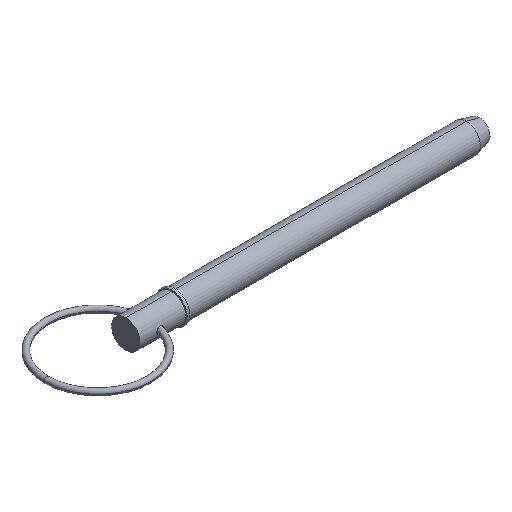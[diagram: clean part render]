
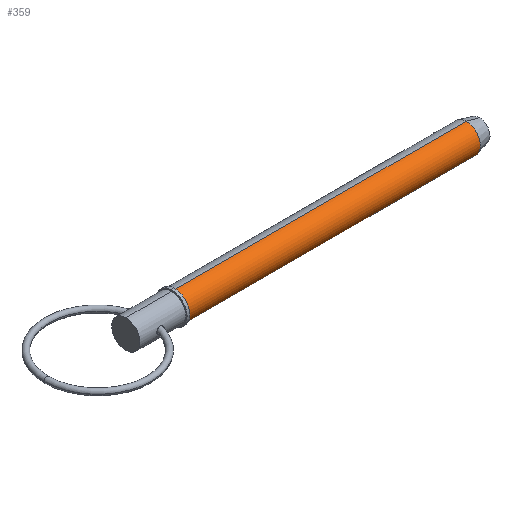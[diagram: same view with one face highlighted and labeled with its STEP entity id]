
A CAD part, isometric view. The second image highlights one B-rep face of the part: STEP entity #359.
In plain terms, the highlighted cylindrical face has radius 7.94 mm (diameter 15.88 mm), a partial arc.
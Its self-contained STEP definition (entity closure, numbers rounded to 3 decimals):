
#2 = EDGE_CURVE ( 'NONE', #723, #264, #544, .T. ) ;
#7 = AXIS2_PLACEMENT_3D ( 'NONE', #582, #346, #594 ) ;
#17 = DIRECTION ( 'NONE',  ( 1., 0., 0. ) ) ;
#24 = CYLINDRICAL_SURFACE ( 'NONE', #374, 7.94 ) ;
#25 = VECTOR ( 'NONE', #870, 1000. ) ;
#39 = DIRECTION ( 'NONE',  ( 1., 0., 0. ) ) ;
#70 = EDGE_LOOP ( 'NONE', ( #1058, #610, #954, #645 ) ) ;
#117 = VERTEX_POINT ( 'NONE', #972 ) ;
#136 = EDGE_CURVE ( 'NONE', #723, #117, #657, .T. ) ;
#170 = CARTESIAN_POINT ( 'NONE',  ( 191.352, 0., -7.94 ) ) ;
#177 = CIRCLE ( 'NONE', #7, 7.94 ) ;
#221 = CARTESIAN_POINT ( 'NONE',  ( 0., 0., 7.94 ) ) ;
#264 = VERTEX_POINT ( 'NONE', #807 ) ;
#332 = CARTESIAN_POINT ( 'NONE',  ( 27.31, 0., 0. ) ) ;
#333 = AXIS2_PLACEMENT_3D ( 'NONE', #332, #988, #575 ) ;
#346 = DIRECTION ( 'NONE',  ( 1., 0., 0. ) ) ;
#354 = FACE_OUTER_BOUND ( 'NONE', #70, .T. ) ;
#359 = ADVANCED_FACE ( 'NONE', ( #354 ), #24, .T. ) ;
#374 = AXIS2_PLACEMENT_3D ( 'NONE', #764, #17, #992 ) ;
#454 = VECTOR ( 'NONE', #39, 1000. ) ;
#544 = LINE ( 'NONE', #221, #25 ) ;
#575 = DIRECTION ( 'NONE',  ( 0., 0., -1. ) ) ;
#582 = CARTESIAN_POINT ( 'NONE',  ( 191.352, 0., 0. ) ) ;
#594 = DIRECTION ( 'NONE',  ( 0., 0., -1. ) ) ;
#610 = ORIENTED_EDGE ( 'NONE', *, *, #136, .T. ) ;
#645 = ORIENTED_EDGE ( 'NONE', *, *, #735, .F. ) ;
#657 = CIRCLE ( 'NONE', #333, 7.94 ) ;
#723 = VERTEX_POINT ( 'NONE', #882 ) ;
#735 = EDGE_CURVE ( 'NONE', #264, #1005, #177, .T. ) ;
#764 = CARTESIAN_POINT ( 'NONE',  ( 0., 0., 0. ) ) ;
#771 = LINE ( 'NONE', #852, #454 ) ;
#807 = CARTESIAN_POINT ( 'NONE',  ( 191.352, 0., 7.94 ) ) ;
#852 = CARTESIAN_POINT ( 'NONE',  ( 0., 0., -7.94 ) ) ;
#870 = DIRECTION ( 'NONE',  ( 1., 0., 0. ) ) ;
#882 = CARTESIAN_POINT ( 'NONE',  ( 27.31, 0., 7.94 ) ) ;
#946 = EDGE_CURVE ( 'NONE', #117, #1005, #771, .T. ) ;
#954 = ORIENTED_EDGE ( 'NONE', *, *, #946, .T. ) ;
#972 = CARTESIAN_POINT ( 'NONE',  ( 27.31, 0., -7.94 ) ) ;
#988 = DIRECTION ( 'NONE',  ( 1., 0., 0. ) ) ;
#992 = DIRECTION ( 'NONE',  ( 0., 0., -1. ) ) ;
#1005 = VERTEX_POINT ( 'NONE', #170 ) ;
#1058 = ORIENTED_EDGE ( 'NONE', *, *, #2, .F. ) ;
